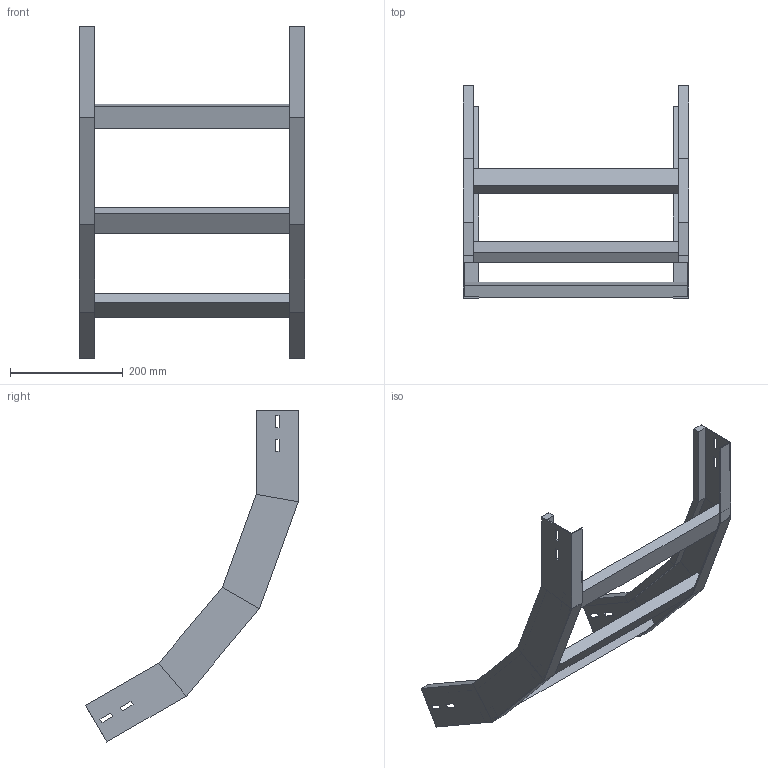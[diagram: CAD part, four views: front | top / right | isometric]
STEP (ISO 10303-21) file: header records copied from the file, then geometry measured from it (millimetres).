
FILE_DESCRIPTION (( 'STEP AP214' ), '1' );
FILE_NAME ('A2X40B5C400XX.step', '2025-03-20T10:17:18', ( '' ), ( '' ), 'SwSTEP 2.0', 'SolidWorks 2023', '' );
FILE_SCHEMA (( 'AUTOMOTIVE_DESIGN' ));
Length unit declared in the file: millimetre
Products named in the file (3): LONGH.SALITA_60°_H75_R500; TRAVERSINO_400; A2X40B5C400XX
Assembly tree (5 placements, depth 2):
  A2X40B5C400XX
    LONGH.SALITA_60°_H75_R500  x2
    TRAVERSINO_400  x3
Bounding box: 400 x 377.79 x 589.4 mm (x, y, z)
Volume: 1492410 mm3; surface area: 476391.6 mm2
Topology: 5 solids, 5 shells, 118 faces, 276 edges, 168 vertices
Faces by surface type: plane 118
Entity records: 1672 total; most frequent: CARTESIAN_POINT 276, ORIENTED_EDGE 264, DIRECTION 260, VECTOR 132, LINE 132, EDGE_CURVE 132, VERTEX_POINT 80, EDGE_LOOP 64
